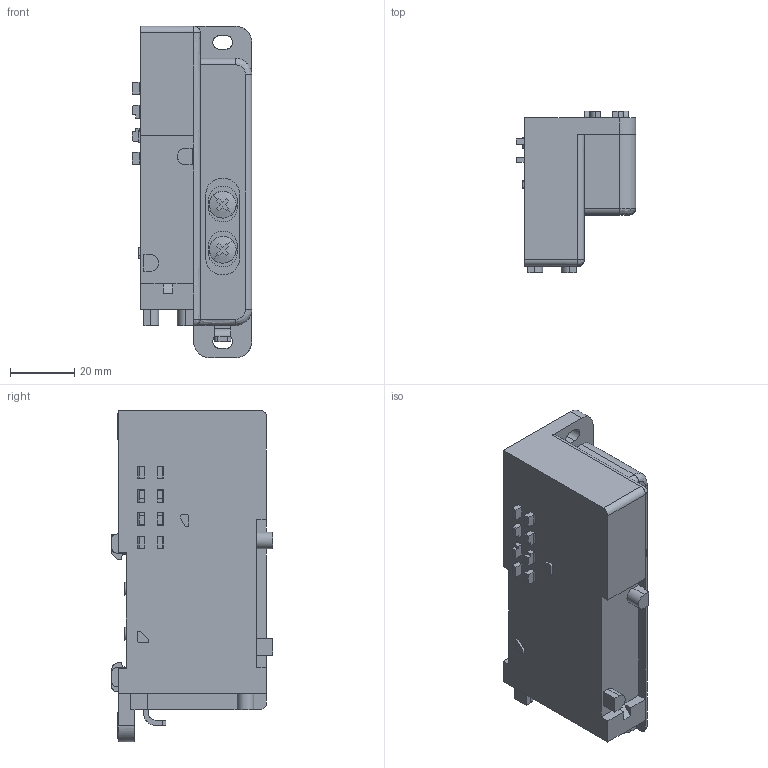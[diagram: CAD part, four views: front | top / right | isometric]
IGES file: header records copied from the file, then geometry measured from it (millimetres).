
Start section: ------------------------------------------------------------------------
Global section: file name: D:\ICADMX\tmp\trans3d_spg\CVICAD02.9116.F10ZX-RN-DN_7873.igs; native system: spGate; preprocessor: ver12.6.6; author: Unknown; organization: Unknown; date: 200901.142052; units: millimetre
Bounding box: 37.1 x 50.2 x 103 mm (x, y, z)
Volume: 110579.1 mm3; surface area: 19492.5 mm2
Topology: 1 solids, 1 shells, 352 faces, 943 edges, 619 vertices
Faces by surface type: bspline 352
